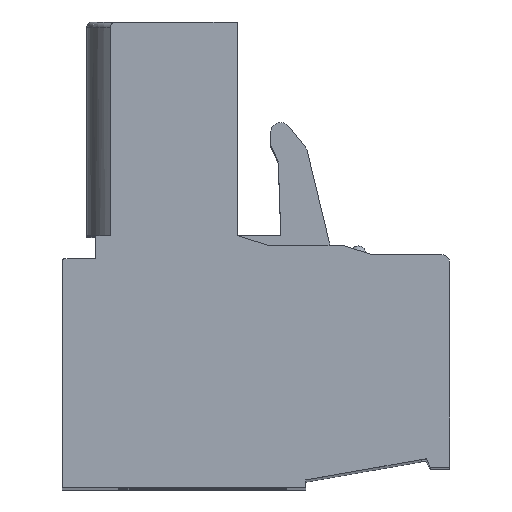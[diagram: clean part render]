
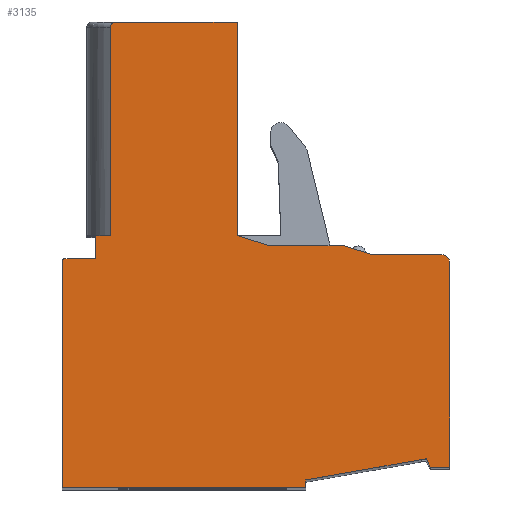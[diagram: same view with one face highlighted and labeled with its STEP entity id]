
A CAD part, top view. The second image highlights one B-rep face of the part: STEP entity #3135.
In plain terms, the highlighted planar face has unit normal (0, 0, 1).
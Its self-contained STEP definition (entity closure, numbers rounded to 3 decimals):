
#3135=ADVANCED_FACE('',(#13143),#13145,.T.);
#13143=FACE_BOUND('',#13144,.T.);
#13144=EDGE_LOOP('',(#21357,#21358,#21359,#21360,#21361,#21362,#21363,#21364,#21365,
#21366,#21367,#21368,#21369,#21370,#21371,#21372,#21373,#21374,#21375,#21376));
#13145=PLANE('',#13146);
#13146=AXIS2_PLACEMENT_3D('',#13147,#13148,#13149);
#13147=CARTESIAN_POINT('',(-14.55,20.418,50.8));
#13148=DIRECTION('',(0.,0.,1.));
#13149=DIRECTION('',(0.,-1.,0.));
#21357=ORIENTED_EDGE('',*,*,#26667,.T.);
#21358=ORIENTED_EDGE('',*,*,#26648,.T.);
#21359=ORIENTED_EDGE('',*,*,#26646,.F.);
#21360=ORIENTED_EDGE('',*,*,#26644,.T.);
#21361=ORIENTED_EDGE('',*,*,#26691,.T.);
#21362=ORIENTED_EDGE('',*,*,#26692,.T.);
#21363=ORIENTED_EDGE('',*,*,#26693,.T.);
#21364=ORIENTED_EDGE('',*,*,#26694,.T.);
#21365=ORIENTED_EDGE('',*,*,#26695,.T.);
#21366=ORIENTED_EDGE('',*,*,#25673,.T.);
#21367=ORIENTED_EDGE('',*,*,#25671,.T.);
#21368=ORIENTED_EDGE('',*,*,#25603,.T.);
#21369=ORIENTED_EDGE('',*,*,#25591,.T.);
#21370=ORIENTED_EDGE('',*,*,#25589,.T.);
#21371=ORIENTED_EDGE('',*,*,#26696,.T.);
#21372=ORIENTED_EDGE('',*,*,#26697,.T.);
#21373=ORIENTED_EDGE('',*,*,#25417,.T.);
#21374=ORIENTED_EDGE('',*,*,#26690,.T.);
#21375=ORIENTED_EDGE('',*,*,#26698,.F.);
#21376=ORIENTED_EDGE('',*,*,#26699,.T.);
#25417=EDGE_CURVE('',#28602,#28600,#28603,.T.);
#25589=EDGE_CURVE('',#28936,#28934,#28937,.T.);
#25591=EDGE_CURVE('',#28939,#28936,#28940,.T.);
#25603=EDGE_CURVE('',#28962,#28939,#28963,.T.);
#25671=EDGE_CURVE('',#29075,#28962,#29076,.T.);
#25673=EDGE_CURVE('',#29078,#29075,#29079,.T.);
#26644=EDGE_CURVE('',#30749,#30747,#30750,.T.);
#26646=EDGE_CURVE('',#30749,#30752,#30753,.T.);
#26648=EDGE_CURVE('',#30755,#30752,#30756,.T.);
#26667=EDGE_CURVE('',#30792,#30755,#30793,.T.);
#26690=EDGE_CURVE('',#28600,#30825,#30827,.T.);
#26691=EDGE_CURVE('',#30747,#30828,#30829,.T.);
#26692=EDGE_CURVE('',#30828,#30830,#30831,.T.);
#26693=EDGE_CURVE('',#30830,#30832,#30833,.T.);
#26694=EDGE_CURVE('',#30832,#30834,#30835,.T.);
#26695=EDGE_CURVE('',#30834,#29078,#30836,.T.);
#26696=EDGE_CURVE('',#28934,#30837,#30838,.T.);
#26697=EDGE_CURVE('',#30837,#28602,#30839,.T.);
#26698=EDGE_CURVE('',#30840,#30825,#30841,.T.);
#26699=EDGE_CURVE('',#30840,#30792,#30842,.T.);
#28600=VERTEX_POINT('',#34000);
#28602=VERTEX_POINT('',#34004);
#28603=LINE('',#34005,#34006);
#28934=VERTEX_POINT('',#35232);
#28936=VERTEX_POINT('',#35236);
#28937=LINE('',#35237,#35238);
#28939=VERTEX_POINT('',#35243);
#28940=LINE('',#35244,#35245);
#28962=VERTEX_POINT('',#35300);
#28963=LINE('',#35301,#35302);
#29075=VERTEX_POINT('',#35569);
#29076=CIRCLE('',#35570,0.3);
#29078=VERTEX_POINT('',#35577);
#29079=LINE('',#35578,#35579);
#30747=VERTEX_POINT('',#39311);
#30749=VERTEX_POINT('',#39315);
#30750=LINE('',#39316,#39317);
#30752=VERTEX_POINT('',#39322);
#30753=CIRCLE('',#39323,0.1);
#30755=VERTEX_POINT('',#39330);
#30756=LINE('',#39331,#39332);
#30792=VERTEX_POINT('',#39405);
#30793=LINE('',#39406,#39407);
#30825=VERTEX_POINT('',#39572);
#30827=CIRCLE('',#39576,0.2);
#30828=VERTEX_POINT('',#39580);
#30829=LINE('',#39581,#39582);
#30830=VERTEX_POINT('',#39584);
#30831=LINE('',#39585,#39586);
#30832=VERTEX_POINT('',#39588);
#30833=LINE('',#39589,#39590);
#30834=VERTEX_POINT('',#39592);
#30835=LINE('',#39593,#39594);
#30836=LINE('',#39596,#39597);
#30837=VERTEX_POINT('',#39599);
#30838=LINE('',#39600,#39601);
#30839=LINE('',#39603,#39604);
#30840=VERTEX_POINT('',#39606);
#30841=LINE('',#39607,#39608);
#30842=LINE('',#39610,#39611);
#34000=CARTESIAN_POINT('',(-1.83,18.1,50.8));
#34004=CARTESIAN_POINT('',(2.89,18.1,50.8));
#34005=CARTESIAN_POINT('',(2.89,18.1,50.8));
#34006=VECTOR('',#34007,1.);
#34007=DIRECTION('',(-1.,0.,0.));
#35232=CARTESIAN_POINT('',(4.15,9.4,50.8));
#35236=CARTESIAN_POINT('',(7.05,9.4,50.8));
#35237=CARTESIAN_POINT('',(7.05,9.4,50.8));
#35238=VECTOR('',#35239,1.);
#35239=DIRECTION('',(-1.,0.,0.));
#35243=CARTESIAN_POINT('',(8.15,9.05,50.8));
#35244=CARTESIAN_POINT('',(8.15,9.05,50.8));
#35245=VECTOR('',#35246,1.);
#35246=DIRECTION('',(-0.953,0.303,0.));
#35300=CARTESIAN_POINT('',(10.85,9.05,50.8));
#35301=CARTESIAN_POINT('',(10.85,9.05,50.8));
#35302=VECTOR('',#35303,1.);
#35303=DIRECTION('',(-1.,0.,0.));
#35569=CARTESIAN_POINT('',(11.15,8.75,50.8));
#35570=AXIS2_PLACEMENT_3D('',#35571,#35572,#35573);
#35571=CARTESIAN_POINT('',(10.85,8.75,50.8));
#35572=DIRECTION('',(0.,0.,1.));
#35573=DIRECTION('',(1.,0.,0.));
#35577=CARTESIAN_POINT('',(11.15,0.8,50.8));
#35578=CARTESIAN_POINT('',(11.15,0.8,50.8));
#35579=VECTOR('',#35580,1.);
#35580=DIRECTION('',(0.,1.,0.));
#39311=CARTESIAN_POINT('',(-3.9,0.,50.8));
#39315=CARTESIAN_POINT('',(-3.9,8.8,50.8));
#39316=CARTESIAN_POINT('',(-3.9,8.8,50.8));
#39317=VECTOR('',#39318,1.);
#39318=DIRECTION('',(0.,-1.,0.));
#39322=CARTESIAN_POINT('',(-3.8,8.9,50.8));
#39323=AXIS2_PLACEMENT_3D('',#39324,#39325,#39326);
#39324=CARTESIAN_POINT('',(-3.8,8.8,50.8));
#39325=DIRECTION('',(0.,0.,-1.));
#39326=DIRECTION('',(-1.,0.,0.));
#39330=CARTESIAN_POINT('',(-2.6,8.9,50.8));
#39331=CARTESIAN_POINT('',(-2.6,8.9,50.8));
#39332=VECTOR('',#39333,1.);
#39333=DIRECTION('',(-1.,0.,0.));
#39405=CARTESIAN_POINT('',(-2.6,9.8,50.8));
#39406=CARTESIAN_POINT('',(-2.6,9.8,50.8));
#39407=VECTOR('',#39408,1.);
#39408=DIRECTION('',(0.,-1.,0.));
#39572=CARTESIAN_POINT('',(-2.03,17.9,50.8));
#39576=AXIS2_PLACEMENT_3D('',#39577,#39578,#39579);
#39577=CARTESIAN_POINT('',(-1.83,17.9,50.8));
#39578=DIRECTION('',(0.,0.,1.));
#39579=DIRECTION('',(0.,1.,0.));
#39580=CARTESIAN_POINT('',(5.55,0.,50.8));
#39581=CARTESIAN_POINT('',(-3.9,0.,50.8));
#39582=VECTOR('',#39583,1.);
#39583=DIRECTION('',(1.,0.,0.));
#39584=CARTESIAN_POINT('',(5.55,0.3,50.8));
#39585=CARTESIAN_POINT('',(5.55,0.,50.8));
#39586=VECTOR('',#39587,1.);
#39587=DIRECTION('',(0.,1.,0.));
#39588=CARTESIAN_POINT('',(10.24,1.127,50.8));
#39589=CARTESIAN_POINT('',(5.55,0.3,50.8));
#39590=VECTOR('',#39591,1.);
#39591=DIRECTION('',(0.985,0.174,0.));
#39592=CARTESIAN_POINT('',(10.4,0.8,50.8));
#39593=CARTESIAN_POINT('',(10.24,1.127,50.8));
#39594=VECTOR('',#39595,1.);
#39595=DIRECTION('',(0.438,-0.899,0.));
#39596=CARTESIAN_POINT('',(10.4,0.8,50.8));
#39597=VECTOR('',#39598,1.);
#39598=DIRECTION('',(1.,0.,0.));
#39599=CARTESIAN_POINT('',(2.89,9.8,50.8));
#39600=CARTESIAN_POINT('',(4.15,9.4,50.8));
#39601=VECTOR('',#39602,1.);
#39602=DIRECTION('',(-0.953,0.303,0.));
#39603=CARTESIAN_POINT('',(2.89,9.8,50.8));
#39604=VECTOR('',#39605,1.);
#39605=DIRECTION('',(0.,1.,0.));
#39606=CARTESIAN_POINT('',(-2.03,9.8,50.8));
#39607=CARTESIAN_POINT('',(-2.03,9.8,50.8));
#39608=VECTOR('',#39609,1.);
#39609=DIRECTION('',(0.,1.,0.));
#39610=CARTESIAN_POINT('',(-2.03,9.8,50.8));
#39611=VECTOR('',#39612,1.);
#39612=DIRECTION('',(-1.,0.,0.));
